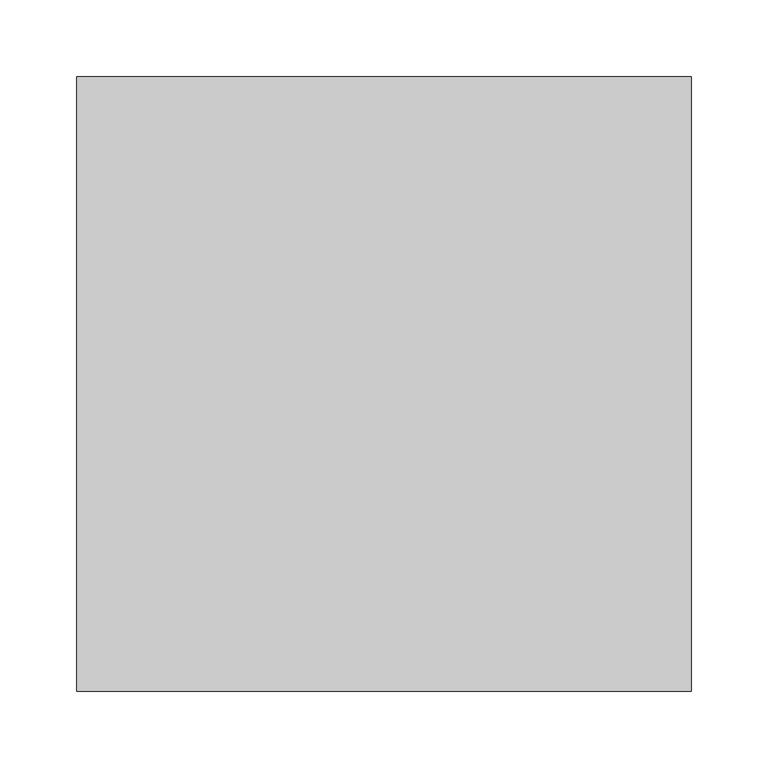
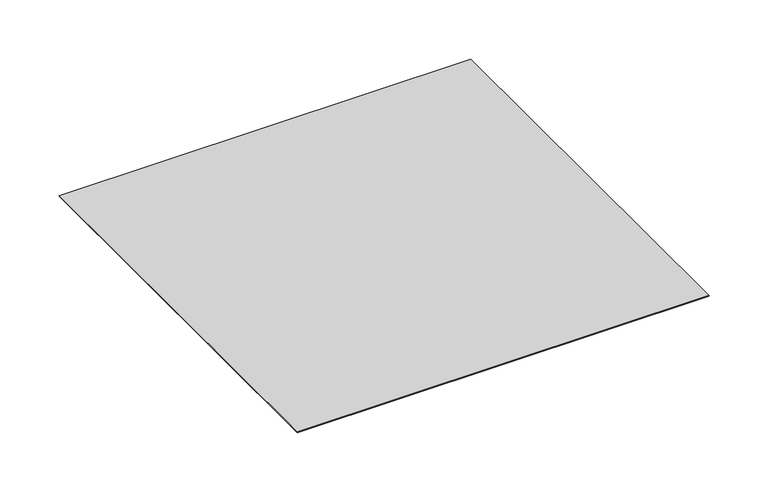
"""IFC4 building model written with IfcOpenShell, lengths in millimetres: proxy geometry, Loggia_Placeholder : Loggia Placeholder."""

from ifc_helpers import new_model, si_unit, origin, origin_with_axes, place, context, project, spatial, polyline, outline, extrude, source, transform, mapped, element, save


def generic_models_34079f03(model_context):
    return source(origin(), model_context, "Body", "SweptSolid", [
        extrude(outline(polyline([(-200.0, 200.0), (200.0, 200.0), (200.0, -200.0), (-200.0, -200.0), (-200.0, 200.0)])), origin_with_axes(), (0.0, 0.0, 1.0), 0.79375),
    ])


if __name__ == "__main__":
    model = new_model("IFC4")
    model_context = context("Model", 3, world=origin())
    ifc_project = project(units=[si_unit("LENGTHUNIT", "METRE", prefix="MILLI")], contexts=[model_context])
    site = spatial("IfcSite", under=ifc_project)
    building = spatial("IfcBuilding", under=site)
    placement = place(None, origin())
    generic_models_shape = generic_models_34079f03(model_context)
    element("IfcBuildingElementProxy", 1, Name="Loggia_Placeholder : Loggia Placeholder", ObjectType="Loggia_Placeholder : Loggia Placeholder", at=placement, inside=building, context=model_context, shape_type="MappedRepresentation", body=[
        mapped(generic_models_shape, transform((0.0, 0.0, 0.0), x_axis=(1.0, 0.0, 0.0), y_axis=(0.0, 1.0, 0.0), z_axis=(0.0, 0.0, 1.0))),
    ])
    save(model, "model.ifc")
